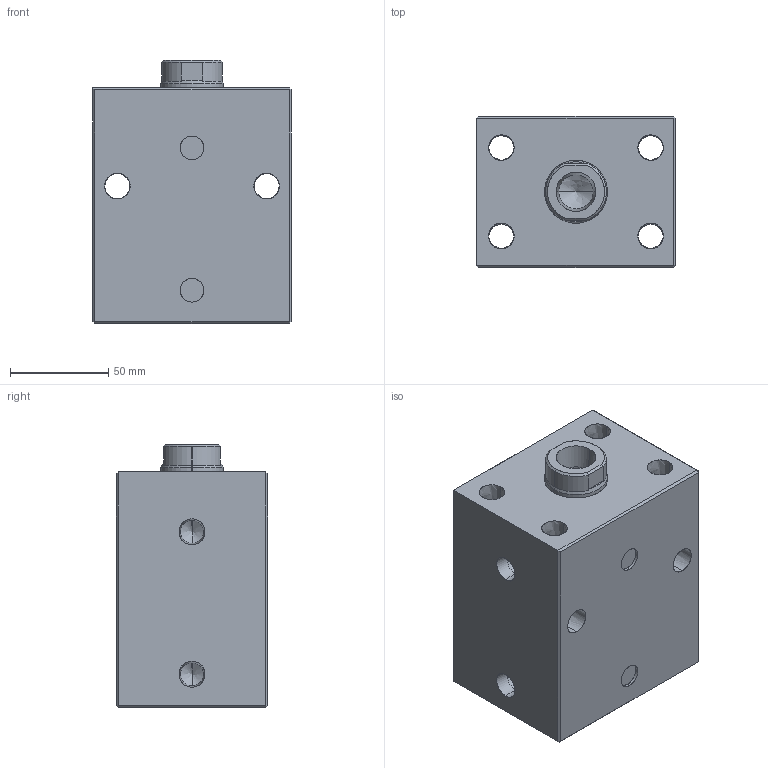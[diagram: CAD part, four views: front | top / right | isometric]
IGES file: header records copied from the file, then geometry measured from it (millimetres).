
Start section: SolidWorks IGES file using analytic representation for surfaces
Global section: file name: E:\ALL-SSVT-BLOCK\50BORE-IGS-MODEL\BC04-50-50-F.IGS; native system: SolidWorks 2019; preprocessor: SolidWorks 2019; author: SSVT; date: 210825.153503; units: millimetre
Bounding box: 101 x 77 x 134 mm (x, y, z)
Surface area: 102545.4 mm2 (no closed solid volume)
Topology: 0 solids, 0 shells, 96 faces, 1751 edges, 1745 vertices
Faces by surface type: revolution 62, bspline 34
